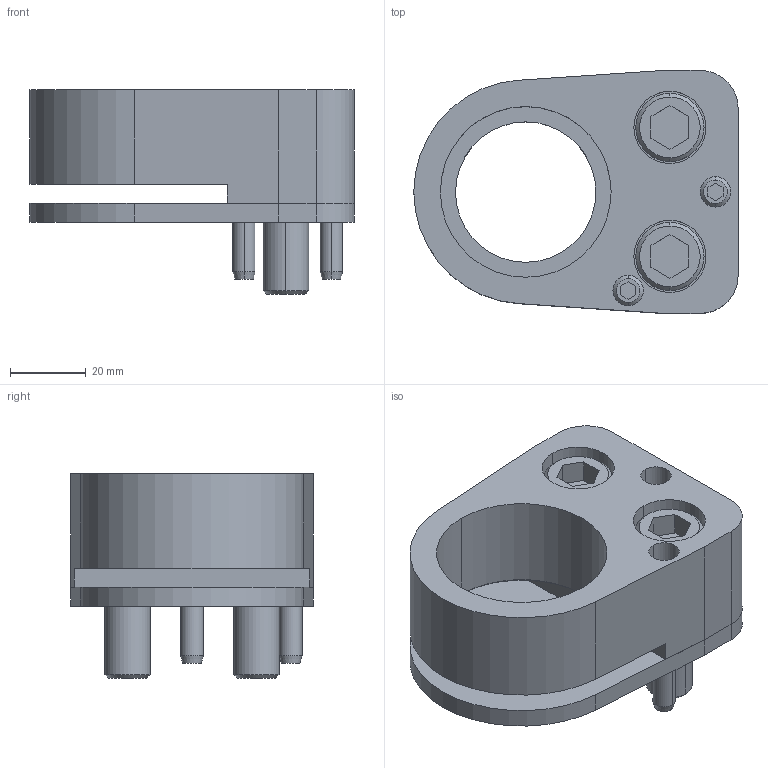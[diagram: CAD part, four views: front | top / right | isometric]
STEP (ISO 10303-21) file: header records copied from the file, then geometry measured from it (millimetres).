
FILE_DESCRIPTION(/* description */ (''),/* implementation_level */ '2;1');
FILE_NAME(/* name */ '3d_dp-fd45_02841_r00.stp',/* time_stamp */ '2011-01-10T14:15:56+09:00',/* author */ ('MISUMI'),/* organization */ (''),/* preprocessor_version */ 'ST-DEVELOPER v11',/* originating_system */ 'UGS - NX 5.0',/* authorisation */ '');
FILE_SCHEMA (('CONFIG_CONTROL_DESIGN'));
Length unit declared in the file: millimetre
Products named in the file (1): 3d_dp-fd45_02841_r00
Bounding box: 85.5 x 64 x 54 mm (x, y, z)
Volume: 109540.2 mm3; surface area: 38121.3 mm2
Topology: 8 solids, 8 shells, 154 faces, 350 edges, 225 vertices
Faces by surface type: plane 68, cylinder 60, cone 26
Entity records: 4500 total; most frequent: DIRECTION 802, CARTESIAN_POINT 787, ORIENTED_EDGE 700, EDGE_CURVE 350, AXIS2_PLACEMENT_3D 302, VERTEX_POINT 225, LINE 198, VECTOR 198
